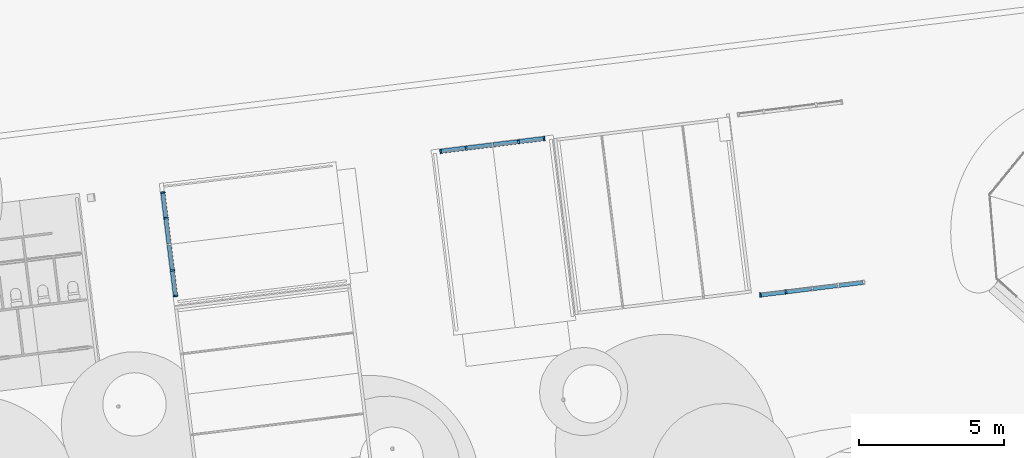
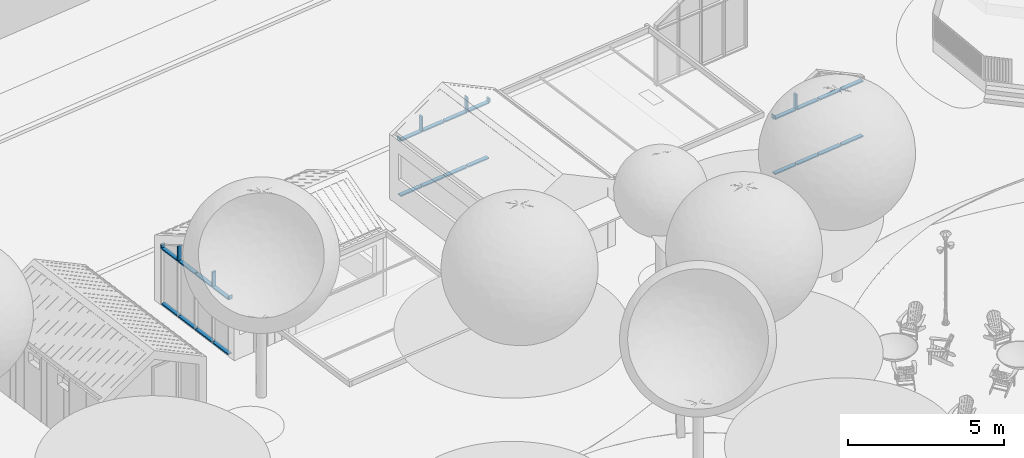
# One storey, part 4 of 75: 34 members, 3 elements without a shape of their own.
"""IFC2X3 building model written with IfcOpenShell, lengths in metres."""

from ifc_helpers import new_model, entity, si_unit, converted_unit, derived_unit, direction, frame, origin, origin_2d_with_axis, place, context, subcontext, project, spatial, polyline, rectangle, extrude, clip, halfspace, bounded_halfspace, source, transform, mapped, material, type_object, type_shapes, element, aggregate, save


model = new_model("IFC2X3")

# Units and contexts
model_context = context("Model", 3, precision=1e-05, world=origin(), true_north=direction((6.123031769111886e-17, 1.0)))
body_context = subcontext(model_context, "Body", "Model", "MODEL_VIEW")
ifc_project = project(units=[si_unit("LENGTHUNIT", "METRE"), si_unit("AREAUNIT", "SQUARE_METRE"), si_unit("VOLUMEUNIT", "CUBIC_METRE"), converted_unit("PLANEANGLEUNIT", "DEGREE", entity("IfcRatioMeasure", 0.017453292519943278), si_unit("PLANEANGLEUNIT", "RADIAN"), dimensions=[0, 0, 0, 0, 0, 0, 0]), si_unit("MASSUNIT", "GRAM", prefix="KILO"), derived_unit("MASSDENSITYUNIT", [(si_unit("MASSUNIT", "GRAM", prefix="KILO"), 1), (si_unit("LENGTHUNIT", "METRE"), -3)]), derived_unit("IONCONCENTRATIONUNIT", [(si_unit("MASSUNIT", "GRAM", prefix="KILO"), 1), (si_unit("LENGTHUNIT", "METRE"), -3)]), derived_unit("MOMENTOFINERTIAUNIT", [(si_unit("LENGTHUNIT", "METRE"), 4)]), si_unit("TIMEUNIT", "SECOND"), si_unit("FREQUENCYUNIT", "HERTZ"), si_unit("THERMODYNAMICTEMPERATUREUNIT", "DEGREE_CELSIUS"), derived_unit("THERMALTRANSMITTANCEUNIT", [(si_unit("MASSUNIT", "GRAM", prefix="KILO"), 1), (si_unit("THERMODYNAMICTEMPERATUREUNIT", "KELVIN"), -1), (si_unit("TIMEUNIT", "SECOND"), -3)]), derived_unit("THERMALCONDUCTANCEUNIT", [(si_unit("MASSUNIT", "GRAM", prefix="KILO"), 1), (si_unit("THERMODYNAMICTEMPERATUREUNIT", "KELVIN"), -1), (si_unit("TIMEUNIT", "SECOND"), -3), (si_unit("LENGTHUNIT", "METRE"), 1)]), derived_unit("VOLUMETRICFLOWRATEUNIT", [(si_unit("LENGTHUNIT", "METRE"), 3), (si_unit("TIMEUNIT", "SECOND"), -1)]), derived_unit("MASSFLOWRATEUNIT", [(si_unit("MASSUNIT", "GRAM", prefix="KILO"), 1), (si_unit("TIMEUNIT", "SECOND"), -1)]), derived_unit("ROTATIONALFREQUENCYUNIT", [(si_unit("TIMEUNIT", "SECOND"), -1)]), si_unit("ELECTRICCURRENTUNIT", "AMPERE"), si_unit("ELECTRICVOLTAGEUNIT", "VOLT"), si_unit("POWERUNIT", "WATT"), si_unit("FORCEUNIT", "NEWTON", prefix="KILO"), si_unit("ILLUMINANCEUNIT", "LUX"), si_unit("LUMINOUSFLUXUNIT", "LUMEN"), si_unit("LUMINOUSINTENSITYUNIT", "CANDELA"), derived_unit("USERDEFINED", [(si_unit("MASSUNIT", "GRAM", prefix="KILO"), -1), (si_unit("LENGTHUNIT", "METRE"), -2), (si_unit("TIMEUNIT", "SECOND"), 3), (si_unit("LUMINOUSFLUXUNIT", "LUMEN"), 1)]), derived_unit("USERDEFINED", [(si_unit("MASSUNIT", "GRAM", prefix="KILO"), 1), (si_unit("TIMEUNIT", "SECOND"), -3), (si_unit("LENGTHUNIT", "METRE"), 3), (si_unit("ELECTRICCURRENTUNIT", "AMPERE"), -2)]), derived_unit("SOUNDPOWERUNIT", [(si_unit("MASSUNIT", "GRAM", prefix="KILO"), 1), (si_unit("TIMEUNIT", "SECOND"), -3), (si_unit("LENGTHUNIT", "METRE"), 2)]), derived_unit("SOUNDPRESSUREUNIT", [(si_unit("MASSUNIT", "GRAM", prefix="KILO"), 1), (si_unit("LENGTHUNIT", "METRE"), -1), (si_unit("TIMEUNIT", "SECOND"), -2)]), derived_unit("LINEARVELOCITYUNIT", [(si_unit("LENGTHUNIT", "METRE"), 1), (si_unit("TIMEUNIT", "SECOND"), -1)]), si_unit("PRESSUREUNIT", "PASCAL"), derived_unit("USERDEFINED", [(si_unit("MASSUNIT", "GRAM", prefix="KILO"), 1), (si_unit("LENGTHUNIT", "METRE"), -2), (si_unit("TIMEUNIT", "SECOND"), -2)]), derived_unit("LINEARFORCEUNIT", [(si_unit("MASSUNIT", "GRAM", prefix="KILO"), 1), (si_unit("TIMEUNIT", "SECOND"), -2)]), derived_unit("PLANARFORCEUNIT", [(si_unit("MASSUNIT", "GRAM", prefix="KILO"), 1), (si_unit("LENGTHUNIT", "METRE"), -1), (si_unit("TIMEUNIT", "SECOND"), -2)]), derived_unit("SPECIFICHEATCAPACITYUNIT", [(si_unit("THERMODYNAMICTEMPERATUREUNIT", "KELVIN"), -1), (si_unit("LENGTHUNIT", "METRE"), 2), (si_unit("TIMEUNIT", "SECOND"), -2)]), derived_unit("HEATINGVALUEUNIT", [(si_unit("LENGTHUNIT", "METRE"), 2), (si_unit("TIMEUNIT", "SECOND"), -2)]), derived_unit("VAPORPERMEABILITYUNIT", [(si_unit("LENGTHUNIT", "METRE"), -1), (si_unit("TIMEUNIT", "SECOND"), 1)]), derived_unit("DYNAMICVISCOSITYUNIT", [(si_unit("MASSUNIT", "GRAM", prefix="KILO"), 1), (si_unit("TIMEUNIT", "SECOND"), -1), (si_unit("LENGTHUNIT", "METRE"), -1)]), derived_unit("THERMALEXPANSIONCOEFFICIENTUNIT", [(si_unit("THERMODYNAMICTEMPERATUREUNIT", "KELVIN"), -1)]), derived_unit("MODULUSOFELASTICITYUNIT", [(si_unit("MASSUNIT", "GRAM", prefix="KILO"), 1), (si_unit("LENGTHUNIT", "METRE"), -1), (si_unit("TIMEUNIT", "SECOND"), -2)]), derived_unit("ISOTHERMALMOISTURECAPACITYUNIT", [(si_unit("LENGTHUNIT", "METRE"), 3), (si_unit("MASSUNIT", "GRAM", prefix="KILO"), -1)]), derived_unit("MOISTUREDIFFUSIVITYUNIT", [(si_unit("TIMEUNIT", "SECOND"), -1), (si_unit("LENGTHUNIT", "METRE"), 2)])], contexts=[model_context])

# Site, building, storey
site_placement = place(None, origin())
site = spatial("IfcSite", under=ifc_project, at=site_placement, Name="Default", CompositionType="ELEMENT")
building_placement = place(site_placement, origin())
building = spatial("IfcBuilding", under=site, at=building_placement, Name="Projeto", CompositionType="ELEMENT")
storey_placement = place(building_placement, origin())
storey = spatial("IfcBuildingStorey", under=building, at=storey_placement, Name="Nível 1", CompositionType="ELEMENT", Elevation=0.0)

# Curtain wall, members
curtain_wall_type = type_object("IfcCurtainWallType", Name="Parede cortina:Vitrine", PredefinedType="NOTDEFINED")
curtain_wall_1_placement = place(storey_placement, origin())
curtain_wall_1 = element("IfcCurtainWall", 1, at=curtain_wall_1_placement, inside=storey, type_object=curtain_wall_type, Name="Parede cortina:Vitrine", ObjectType="Parede cortina:Vitrine")
ifc_material = material(Name="Alumín.")
member_type_1 = type_object("IfcMemberType", Name="Montante retangular:50 x 150mm", PredefinedType="MULLION", material=ifc_material)
shared_shape_1 = source(origin(), body_context, "Body", "SweptSolid", [
    extrude(rectangle(XDim=0.14999999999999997, YDim=0.05, at=origin_2d_with_axis()), frame((-0.025, 0.0, -0.8337612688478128), z_axis=(0.0, 0.0, 1.0), x_axis=(0.0, -1.0, 0.0)), (0.0, 0.0, 1.0), 0.8337612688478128),
])
type_shapes(member_type_1, [shared_shape_1])
member_1_placement = place(curtain_wall_1_placement, frame((1.2274902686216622, 34.72319980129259, -2.5799999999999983), z_axis=(0.9925113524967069, 0.12215242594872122, 0.0), x_axis=(0.0, 0.0, -1.0)))
member_1 = element("IfcMember", 2, at=member_1_placement, type_object=member_type_1, material=ifc_material, Name="Montante retangular:50 x 150mm", ObjectType="Montante retangular:50 x 150mm", context=body_context, shape_type="MappedRepresentation", body=[
    mapped(shared_shape_1, transform((0.0, 0.0, 0.0), scale=1.0)),
])
member_2_placement = place(curtain_wall_1_placement, frame((-1.4535645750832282, 34.39323143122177, -2.5799999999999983), z_axis=(0.9925113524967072, 0.12215242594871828, 0.0), x_axis=(0.0, 0.0, -1.0)))
member_2 = element("IfcMember", 3, at=member_2_placement, type_object=member_type_1, material=ifc_material, Name="Montante retangular:50 x 150mm", ObjectType="Montante retangular:50 x 150mm", context=body_context, shape_type="MappedRepresentation", body=[
    mapped(shared_shape_1, transform((0.0, 0.0, 0.0), scale=1.0)),
])

curtain_wall_2_placement = place(storey_placement, origin())
curtain_wall_2 = element("IfcCurtainWall", 4, at=curtain_wall_2_placement, inside=storey, type_object=curtain_wall_type, Name="Parede cortina:Vitrine", ObjectType="Parede cortina:Vitrine")
member_3_placement = place(curtain_wall_2_placement, frame((-11.858761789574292, 32.84686849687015, -2.579999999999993), z_axis=(-0.12215242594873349, 0.9925113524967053, 0.0), x_axis=(0.0, 0.0, -1.0)))
member_3 = element("IfcMember", 5, at=member_3_placement, type_object=member_type_1, material=ifc_material, Name="Montante retangular:50 x 150mm", ObjectType="Montante retangular:50 x 150mm", context=body_context, shape_type="MappedRepresentation", body=[
    mapped(shared_shape_1, transform((0.0, 0.0, 0.0), scale=1.0)),
])
member_4_placement = place(curtain_wall_2_placement, frame((-11.528793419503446, 30.165813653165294, -2.579999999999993), z_axis=(-0.12215242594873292, 0.9925113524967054, 0.0), x_axis=(0.0, 0.0, -1.0)))
member_4 = element("IfcMember", 6, at=member_4_placement, type_object=member_type_1, material=ifc_material, Name="Montante retangular:50 x 150mm", ObjectType="Montante retangular:50 x 150mm", context=body_context, shape_type="MappedRepresentation", body=[
    mapped(shared_shape_1, transform((0.0, 0.0, 0.0), scale=1.0)),
])

curtain_wall_3_placement = place(storey_placement, origin())
curtain_wall_3 = element("IfcCurtainWall", 7, at=curtain_wall_3_placement, inside=storey, type_object=curtain_wall_type, Name="Parede cortina:Vitrine", ObjectType="Parede cortina:Vitrine")
member_5_placement = place(curtain_wall_3_placement, frame((8.719413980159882, 29.35007242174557, -2.579999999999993), z_axis=(-0.9925113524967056, -0.12215242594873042, 0.0), x_axis=(0.0, 0.0, -1.0)))
member_5 = element("IfcMember", 8, at=member_5_placement, type_object=member_type_1, material=ifc_material, Name="Montante retangular:50 x 150mm", ObjectType="Montante retangular:50 x 150mm", context=body_context, shape_type="MappedRepresentation", body=[
    mapped(shared_shape_1, transform((0.0, 0.0, 0.0), scale=1.0)),
])
member_6_placement = place(curtain_wall_3_placement, frame((11.400468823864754, 29.680040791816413, -2.579999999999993), z_axis=(-0.9925113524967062, -0.12215242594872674, 0.0), x_axis=(0.0, 0.0, -1.0)))
member_6 = element("IfcMember", 9, at=member_6_placement, type_object=member_type_1, material=ifc_material, Name="Montante retangular:50 x 150mm", ObjectType="Montante retangular:50 x 150mm", context=body_context, shape_type="MappedRepresentation", body=[
    mapped(shared_shape_1, transform((0.0, 0.0, 0.0), scale=1.0)),
])

# Member
member_type_2 = type_object("IfcMemberType", Name="Montante retangular:50 x 150mm", PredefinedType="MULLION", material=ifc_material)
shared_shape_2 = source(origin(), body_context, "Body", "SweptSolid", [
    extrude(rectangle(XDim=0.14999999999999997, YDim=0.05, at=origin_2d_with_axis()), frame((-0.025, 0.0, -0.858761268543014), z_axis=(0.0, 0.0, 1.0), x_axis=(0.0, -1.0, 0.0)), (0.0, 0.0, 1.0), 0.858761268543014),
])
type_shapes(member_type_2, [shared_shape_2])
member_7_placement = place(curtain_wall_1_placement, frame((0.3503471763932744, 34.6152462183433, -2.5799999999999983), z_axis=(0.9925113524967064, 0.12215242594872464, 0.0), x_axis=(0.0, 0.0, -1.0)))
member_7 = element("IfcMember", 10, at=member_7_placement, type_object=member_type_2, material=ifc_material, Name="Montante retangular:50 x 150mm", ObjectType="Montante retangular:50 x 150mm", context=body_context, shape_type="MappedRepresentation", body=[
    mapped(shared_shape_2, transform((0.0, 0.0, 0.0), scale=1.0)),
])

member_8_placement = place(curtain_wall_1_placement, frame((-0.5516086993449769, 34.50423882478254, -2.5799999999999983), z_axis=(0.992511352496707, 0.12215242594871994, 0.0), x_axis=(0.0, 0.0, -1.0)))
member_8 = element("IfcMember", 11, at=member_8_placement, type_object=member_type_2, material=ifc_material, Name="Montante retangular:50 x 150mm", ObjectType="Montante retangular:50 x 150mm", context=body_context, shape_type="MappedRepresentation", body=[
    mapped(shared_shape_2, transform((0.0, 0.0, 0.0), scale=1.0)),
])

member_9_placement = place(curtain_wall_2_placement, frame((-11.750808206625, 31.969725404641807, -2.579999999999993), z_axis=(-0.12215242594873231, 0.9925113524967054, 0.0), x_axis=(0.0, 0.0, -1.0)))
member_9 = element("IfcMember", 12, at=member_9_placement, type_object=member_type_2, material=ifc_material, Name="Montante retangular:50 x 150mm", ObjectType="Montante retangular:50 x 150mm", context=body_context, shape_type="MappedRepresentation", body=[
    mapped(shared_shape_2, transform((0.0, 0.0, 0.0), scale=1.0)),
])

member_10_placement = place(curtain_wall_2_placement, frame((-11.639800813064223, 31.067769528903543, -2.579999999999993), z_axis=(-0.12215242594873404, 0.9925113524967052, 0.0), x_axis=(0.0, 0.0, -1.0)))
member_10 = element("IfcMember", 13, at=member_10_placement, type_object=member_type_2, material=ifc_material, Name="Montante retangular:50 x 150mm", ObjectType="Montante retangular:50 x 150mm", context=body_context, shape_type="MappedRepresentation", body=[
    mapped(shared_shape_2, transform((0.0, 0.0, 0.0), scale=1.0)),
])

member_11_placement = place(curtain_wall_3_placement, frame((9.596557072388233, 29.458026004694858, -2.579999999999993), z_axis=(-0.9925113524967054, -0.12215242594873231, 0.0), x_axis=(0.0, 0.0, -1.0)))
member_11 = element("IfcMember", 14, at=member_11_placement, type_object=member_type_2, material=ifc_material, Name="Montante retangular:50 x 150mm", ObjectType="Montante retangular:50 x 150mm", context=body_context, shape_type="MappedRepresentation", body=[
    mapped(shared_shape_2, transform((0.0, 0.0, 0.0), scale=1.0)),
])

member_12_placement = place(curtain_wall_3_placement, frame((10.498512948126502, 29.569033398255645, -2.579999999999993), z_axis=(-0.9925113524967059, -0.12215242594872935, 0.0), x_axis=(0.0, 0.0, -1.0)))
member_12 = element("IfcMember", 15, at=member_12_placement, type_object=member_type_2, material=ifc_material, Name="Montante retangular:50 x 150mm", ObjectType="Montante retangular:50 x 150mm", context=body_context, shape_type="MappedRepresentation", body=[
    mapped(shared_shape_2, transform((0.0, 0.0, 0.0), scale=1.0)),
])

member_type_3 = type_object("IfcMemberType", Name="Montante retangular:50 x 150mm", PredefinedType="MULLION", material=ifc_material)
shared_shape_3 = source(origin(), body_context, "Body", "SweptSolid", [
    clip(clip(extrude(rectangle(XDim=0.14999999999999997, YDim=0.05, at=origin_2d_with_axis()), frame((0.0, 0.0, -0.6097128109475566), z_axis=(0.0, 0.0, 1.0), x_axis=(0.0, -1.0, 0.0)), (0.0, 0.0, 1.0), 0.6097128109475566), bounded_halfspace(frame((0.9249729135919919, 0.07499999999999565, -1.0882368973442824), z_axis=(-0.46947156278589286, 0.0, -0.8829475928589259), x_axis=(-0.8829475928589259, 0.0, 0.46947156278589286)), False, frame((0.0, 0.0, -0.6097128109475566), z_axis=(0.0, 0.0, 1.0), x_axis=(0.0, -1.0, 0.0)), polyline([(-0.07499999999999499, 0.025), (0.07499999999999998, 0.025), (0.07499999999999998, 0.023473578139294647), (-0.07499999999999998, 0.0234735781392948), (-0.07499999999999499, 0.025)]))), bounded_halfspace(frame((0.023473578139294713, 0.07499999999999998, -0.6089011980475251), z_axis=(-0.4694715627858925, 0.0, -0.8829475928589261), x_axis=(-0.8829475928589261, 0.0, 0.4694715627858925)), False, frame((0.0, 0.0, -0.6097128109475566), z_axis=(0.0, 0.0, 1.0), x_axis=(0.0, -1.0, 0.0)), polyline([(0.07499999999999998, 0.023473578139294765), (0.07499999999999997, -0.025), (-0.07499999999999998, -0.025), (-0.07499999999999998, 0.023473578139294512), (0.07499999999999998, 0.023473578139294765)]))),
])
type_shapes(member_type_3, [shared_shape_3])
member_13_placement = place(curtain_wall_1_placement, frame((0.37515996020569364, 34.61830002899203, -0.39703155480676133), z_axis=(0.0, 0.0, -1.0), x_axis=(-0.992511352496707, -0.12215242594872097, 0.0)))
member_13 = element("IfcMember", 16, at=member_13_placement, type_object=member_type_3, material=ifc_material, Name="Montante retangular:50 x 150mm", ObjectType="Montante retangular:50 x 150mm", context=body_context, shape_type="MappedRepresentation", body=[
    mapped(shared_shape_3, transform((0.0, 0.0, 0.0), scale=1.0)),
])

member_14_placement = place(curtain_wall_2_placement, frame((-11.753862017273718, 31.994538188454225, -0.39703155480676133), z_axis=(0.0, 0.0, -1.0), x_axis=(0.12215242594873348, -0.9925113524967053, 0.0)))
member_14 = element("IfcMember", 17, at=member_14_placement, type_object=member_type_3, material=ifc_material, Name="Montante retangular:50 x 150mm", ObjectType="Montante retangular:50 x 150mm", context=body_context, shape_type="MappedRepresentation", body=[
    mapped(shared_shape_3, transform((0.0, 0.0, 0.0), scale=1.0)),
])

member_15_placement = place(curtain_wall_3_placement, frame((9.571744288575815, 29.45497219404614, -0.39703155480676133), z_axis=(0.0, 0.0, -1.0), x_axis=(0.9925113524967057, 0.1221524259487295, 0.0)))
member_15 = element("IfcMember", 18, at=member_15_placement, type_object=member_type_3, material=ifc_material, Name="Montante retangular:50 x 150mm", ObjectType="Montante retangular:50 x 150mm", context=body_context, shape_type="MappedRepresentation", body=[
    mapped(shared_shape_3, transform((0.0, 0.0, 0.0), scale=1.0)),
])

member_type_4 = type_object("IfcMemberType", Name="Montante retangular:50 x 150mm", PredefinedType="MULLION", material=ifc_material)
shared_shape_4 = source(origin(), body_context, "Body", "SweptSolid", [
    extrude(rectangle(XDim=0.15, YDim=0.05, at=origin_2d_with_axis()), frame((0.0, 0.0, -0.8337612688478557), z_axis=(0.0, 0.0, 1.0), x_axis=(0.0, -1.0, 0.0)), (0.0, 0.0, 1.0), 0.8337612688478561),
])
type_shapes(member_type_4, [shared_shape_4])
member_16_placement = place(curtain_wall_1_placement, frame((0.3999727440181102, 34.62135383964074, -0.39703155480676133), z_axis=(-0.992511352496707, -0.12215242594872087, 0.0), x_axis=(0.0, 0.0, 1.0)))
member_16 = element("IfcMember", 19, at=member_16_placement, type_object=member_type_4, material=ifc_material, Name="Montante retangular:50 x 150mm", ObjectType="Montante retangular:50 x 150mm", context=body_context, shape_type="MappedRepresentation", body=[
    mapped(shared_shape_4, transform((0.0, 0.0, 0.0), scale=1.0)),
])

member_17_placement = place(curtain_wall_1_placement, frame((-2.2810820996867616, 34.291385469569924, -0.39703155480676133), z_axis=(-0.9925113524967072, -0.12215242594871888, 0.0), x_axis=(0.0, 0.0, 1.0)))
member_17 = element("IfcMember", 20, at=member_17_placement, type_object=member_type_4, material=ifc_material, Name="Montante retangular:50 x 150mm", ObjectType="Montante retangular:50 x 150mm", context=body_context, shape_type="MappedRepresentation", body=[
    mapped(shared_shape_4, transform((0.0, 0.0, 0.0), scale=1.0)),
])

member_18_placement = place(curtain_wall_2_placement, frame((-11.756915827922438, 32.01935097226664, -0.39703155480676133), z_axis=(0.12215242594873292, -0.9925113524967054, 0.0), x_axis=(0.0, 0.0, 1.0)))
member_18 = element("IfcMember", 21, at=member_18_placement, type_object=member_type_4, material=ifc_material, Name="Montante retangular:50 x 150mm", ObjectType="Montante retangular:50 x 150mm", context=body_context, shape_type="MappedRepresentation", body=[
    mapped(shared_shape_4, transform((0.0, 0.0, 0.0), scale=1.0)),
])

member_19_placement = place(curtain_wall_2_placement, frame((-11.426947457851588, 29.33829612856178, -0.39703155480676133), z_axis=(0.12215242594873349, -0.9925113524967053, 0.0), x_axis=(0.0, 0.0, 1.0)))
member_19 = element("IfcMember", 22, at=member_19_placement, type_object=member_type_4, material=ifc_material, Name="Montante retangular:50 x 150mm", ObjectType="Montante retangular:50 x 150mm", context=body_context, shape_type="MappedRepresentation", body=[
    mapped(shared_shape_4, transform((0.0, 0.0, 0.0), scale=1.0)),
])

member_20_placement = place(curtain_wall_3_placement, frame((9.5469315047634, 29.45191838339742, -0.39703155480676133), z_axis=(0.9925113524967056, 0.12215242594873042, 0.0), x_axis=(0.0, 0.0, 1.0)))
member_20 = element("IfcMember", 23, at=member_20_placement, type_object=member_type_4, material=ifc_material, Name="Montante retangular:50 x 150mm", ObjectType="Montante retangular:50 x 150mm", context=body_context, shape_type="MappedRepresentation", body=[
    mapped(shared_shape_4, transform((0.0, 0.0, 0.0), scale=1.0)),
])

member_21_placement = place(curtain_wall_3_placement, frame((12.227986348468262, 29.781886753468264, -0.39703155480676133), z_axis=(0.9925113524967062, 0.12215242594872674, 0.0), x_axis=(0.0, 0.0, 1.0)))
member_21 = element("IfcMember", 24, at=member_21_placement, type_object=member_type_4, material=ifc_material, Name="Montante retangular:50 x 150mm", ObjectType="Montante retangular:50 x 150mm", context=body_context, shape_type="MappedRepresentation", body=[
    mapped(shared_shape_4, transform((0.0, 0.0, 0.0), scale=1.0)),
])

member_type_5 = type_object("IfcMemberType", Name="Montante retangular:50 x 150mm", PredefinedType="MULLION", material=ifc_material)
shared_shape_5 = source(origin(), body_context, "Body", "SweptSolid", [
    extrude(rectangle(XDim=0.14999999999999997, YDim=0.05, at=origin_2d_with_axis()), frame((0.0, 0.0, -0.8587612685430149), z_axis=(0.0, 0.0, 1.0), x_axis=(0.0, -1.0, 0.0)), (0.0, 0.0, 1.0), 0.8587612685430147),
])
type_shapes(member_type_5, [shared_shape_5])
member_22_placement = place(curtain_wall_1_placement, frame((-0.5019831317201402, 34.510346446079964, -0.39703155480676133), z_axis=(-0.9925113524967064, -0.12215242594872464, 0.0), x_axis=(0.0, 0.0, 1.0)))
member_22 = element("IfcMember", 25, at=member_22_placement, type_object=member_type_5, material=ifc_material, Name="Montante retangular:50 x 150mm", ObjectType="Montante retangular:50 x 150mm", context=body_context, shape_type="MappedRepresentation", body=[
    mapped(shared_shape_5, transform((0.0, 0.0, 0.0), scale=1.0)),
])

member_23_placement = place(curtain_wall_1_placement, frame((-1.4039390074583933, 34.39933905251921, -0.39703155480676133), z_axis=(-0.992511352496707, -0.1221524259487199, 0.0), x_axis=(0.0, 0.0, 1.0)))
member_23 = element("IfcMember", 26, at=member_23_placement, type_object=member_type_5, material=ifc_material, Name="Montante retangular:50 x 150mm", ObjectType="Montante retangular:50 x 150mm", context=body_context, shape_type="MappedRepresentation", body=[
    mapped(shared_shape_5, transform((0.0, 0.0, 0.0), scale=1.0)),
])

member_24_placement = place(curtain_wall_2_placement, frame((-11.645908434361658, 31.117395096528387, -0.39703155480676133), z_axis=(0.12215242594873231, -0.9925113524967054, 0.0), x_axis=(0.0, 0.0, 1.0)))
member_24 = element("IfcMember", 27, at=member_24_placement, type_object=member_type_5, material=ifc_material, Name="Montante retangular:50 x 150mm", ObjectType="Montante retangular:50 x 150mm", context=body_context, shape_type="MappedRepresentation", body=[
    mapped(shared_shape_5, transform((0.0, 0.0, 0.0), scale=1.0)),
])

member_25_placement = place(curtain_wall_2_placement, frame((-11.534901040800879, 30.215439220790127, -0.39703155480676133), z_axis=(0.12215242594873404, -0.9925113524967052, 0.0), x_axis=(0.0, 0.0, 1.0)))
member_25 = element("IfcMember", 28, at=member_25_placement, type_object=member_type_5, material=ifc_material, Name="Montante retangular:50 x 150mm", ObjectType="Montante retangular:50 x 150mm", context=body_context, shape_type="MappedRepresentation", body=[
    mapped(shared_shape_5, transform((0.0, 0.0, 0.0), scale=1.0)),
])

member_26_placement = place(curtain_wall_3_placement, frame((10.448887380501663, 29.562925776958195, -0.39703155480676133), z_axis=(0.9925113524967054, 0.12215242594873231, 0.0), x_axis=(0.0, 0.0, 1.0)))
member_26 = element("IfcMember", 29, at=member_26_placement, type_object=member_type_5, material=ifc_material, Name="Montante retangular:50 x 150mm", ObjectType="Montante retangular:50 x 150mm", context=body_context, shape_type="MappedRepresentation", body=[
    mapped(shared_shape_5, transform((0.0, 0.0, 0.0), scale=1.0)),
])

member_27_placement = place(curtain_wall_3_placement, frame((11.350843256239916, 29.67393317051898, -0.39703155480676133), z_axis=(0.9925113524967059, 0.12215242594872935, 0.0), x_axis=(0.0, 0.0, 1.0)))
member_27 = element("IfcMember", 30, at=member_27_placement, type_object=member_type_5, material=ifc_material, Name="Montante retangular:50 x 150mm", ObjectType="Montante retangular:50 x 150mm", context=body_context, shape_type="MappedRepresentation", body=[
    mapped(shared_shape_5, transform((0.0, 0.0, 0.0), scale=1.0)),
])

member_type_6 = type_object("IfcMemberType", Name="Montante retangular:50 x 150mm", PredefinedType="MULLION", material=ifc_material)
shared_shape_6 = source(origin(), body_context, "Body", "SweptSolid", [
    clip(clip(extrude(rectangle(XDim=0.14999999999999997, YDim=0.05, at=origin_2d_with_axis()), frame((0.0, 0.0, -0.6019903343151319), z_axis=(0.0, 0.0, 1.0), x_axis=(0.0, -1.0, 0.0)), (0.0, 0.0, 1.0), 0.6019903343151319), bounded_halfspace(frame((-0.023473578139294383, 0.07499999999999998, -0.6011787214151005), z_axis=(0.46947156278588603, 0.0, -0.8829475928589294), x_axis=(-0.8829475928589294, 0.0, -0.46947156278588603)), False, frame((0.0, 0.0, -0.6019903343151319), z_axis=(0.0, 0.0, 1.0), x_axis=(0.0, -1.0, 0.0)), polyline([(0.07499999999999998, -0.023473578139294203), (0.07499999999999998, -0.025), (-0.07499999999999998, -0.025), (-0.07499999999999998, -0.023473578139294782), (0.07499999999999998, -0.023473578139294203)]))), bounded_halfspace(frame((0.8852876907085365, 0.07500000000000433, -0.11798178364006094), z_axis=(0.46947156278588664, 0.0, -0.8829475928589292), x_axis=(-0.8829475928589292, 0.0, -0.46947156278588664)), False, frame((0.0, 0.0, -0.6019903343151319), z_axis=(0.0, 0.0, 1.0), x_axis=(0.0, -1.0, 0.0)), polyline([(-0.07500000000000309, 0.025), (0.07499999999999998, 0.025), (0.07499999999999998, -0.023473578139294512), (-0.07499999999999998, -0.0234735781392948), (-0.07500000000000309, 0.025)]))),
])
type_shapes(member_type_6, [shared_shape_6])
member_28_placement = place(curtain_wall_1_placement, frame((-1.4287517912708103, 34.396285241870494, -0.39703155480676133), z_axis=(0.0, 0.0, -1.0), x_axis=(-0.992511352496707, -0.12215242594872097, 0.0)))
member_28 = element("IfcMember", 31, at=member_28_placement, type_object=member_type_6, material=ifc_material, Name="Montante retangular:50 x 150mm", ObjectType="Montante retangular:50 x 150mm", context=body_context, shape_type="MappedRepresentation", body=[
    mapped(shared_shape_6, transform((0.0, 0.0, 0.0), scale=1.0)),
])

member_type_7 = type_object("IfcMemberType", Name="Montante retangular:50 x 150mm", PredefinedType="MULLION", material=ifc_material)
shared_shape_7 = source(origin(), body_context, "Body", "SweptSolid", [
    clip(extrude(rectangle(XDim=0.14999999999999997, YDim=0.05, at=origin_2d_with_axis()), frame((-0.025, 0.0, -0.16985163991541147), z_axis=(0.0, 0.0, 1.0), x_axis=(0.0, -1.0, 0.0)), (0.0, 0.0, 1.0), 0.1698516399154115), halfspace(frame((0.0, -0.3048, 0.0), z_axis=(-0.5150380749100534, 0.0, 0.8571673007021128), x_axis=(-0.8571673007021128, 0.0, -0.5150380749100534)), False)),
])
type_shapes(member_type_7, [shared_shape_7])
member_29_placement = place(curtain_wall_1_placement, frame((1.2771158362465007, 34.72930742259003, -0.22717991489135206), z_axis=(0.0, 0.0, 1.0), x_axis=(0.992511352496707, 0.12215242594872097, 0.0)))
member_29 = element("IfcMember", 32, at=member_29_placement, type_object=member_type_7, material=ifc_material, Name="Montante retangular:50 x 150mm", ObjectType="Montante retangular:50 x 150mm", context=body_context, shape_type="MappedRepresentation", body=[
    mapped(shared_shape_7, transform((0.0, 0.0, 0.0), scale=1.0)),
])

member_30_placement = place(curtain_wall_2_placement, frame((-11.864869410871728, 32.896494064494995, -0.22717991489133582), z_axis=(0.0, 0.0, 1.0), x_axis=(-0.12215242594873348, 0.9925113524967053, 0.0)))
member_30 = element("IfcMember", 33, at=member_30_placement, type_object=member_type_7, material=ifc_material, Name="Montante retangular:50 x 150mm", ObjectType="Montante retangular:50 x 150mm", context=body_context, shape_type="MappedRepresentation", body=[
    mapped(shared_shape_7, transform((0.0, 0.0, 0.0), scale=1.0)),
])

member_31_placement = place(curtain_wall_3_placement, frame((8.669788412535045, 29.34396480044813, -0.22717991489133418), z_axis=(0.0, 0.0, 1.0), x_axis=(-0.9925113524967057, -0.1221524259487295, 0.0)))
member_31 = element("IfcMember", 34, at=member_31_placement, type_object=member_type_7, material=ifc_material, Name="Montante retangular:50 x 150mm", ObjectType="Montante retangular:50 x 150mm", context=body_context, shape_type="MappedRepresentation", body=[
    mapped(shared_shape_7, transform((0.0, 0.0, 0.0), scale=1.0)),
])

aggregate(curtain_wall_3, [member_5, member_11, member_12, member_15, member_20, member_26, member_27, member_6, member_21, member_31])

member_type_8 = type_object("IfcMemberType", Name="Montante retangular:50 x 150mm", PredefinedType="MULLION", material=ifc_material)
shared_shape_8 = source(origin(), body_context, "Body", "SweptSolid", [
    clip(extrude(rectangle(XDim=0.14999999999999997, YDim=0.05, at=origin_2d_with_axis()), frame((-0.025, 0.0, -0.16212916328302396), z_axis=(0.0, 0.0, 1.0), x_axis=(0.0, -1.0, 0.0)), (0.0, 0.0, 1.0), 0.16212916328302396), halfspace(frame((0.0, -0.30479999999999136, -0.16212916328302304), z_axis=(-0.5150380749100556, 0.0, -0.8571673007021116), x_axis=(-0.8571673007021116, 0.0, 0.5150380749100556)), False)),
])
type_shapes(member_type_8, [shared_shape_8])
member_32_placement = place(curtain_wall_1_placement, frame((-2.3307076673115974, 34.2852778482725, -0.39703155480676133), z_axis=(0.0, 0.0, -1.0), x_axis=(-0.992511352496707, -0.12215242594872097, 0.0)))
member_32 = element("IfcMember", 35, at=member_32_placement, type_object=member_type_8, material=ifc_material, Name="Montante retangular:50 x 150mm", ObjectType="Montante retangular:50 x 150mm", context=body_context, shape_type="MappedRepresentation", body=[
    mapped(shared_shape_8, transform((0.0, 0.0, 0.0), scale=1.0)),
])

aggregate(curtain_wall_1, [member_1, member_7, member_8, member_13, member_16, member_22, member_23, member_2, member_17, member_28, member_29, member_32])

member_type_9 = type_object("IfcMemberType", Name="Montante retangular:50 x 150mm", PredefinedType="MULLION", material=ifc_material)
shared_shape_9 = source(origin(), body_context, "Body", "SweptSolid", [
    clip(clip(extrude(rectangle(XDim=0.15000000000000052, YDim=0.05, at=origin_2d_with_axis()), frame((0.0, 0.0, -0.6019903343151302), z_axis=(0.0, 0.0, 1.0), x_axis=(0.0, -1.0, 0.0)), (0.0, 0.0, 1.0), 0.6019903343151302), bounded_halfspace(frame((-0.023473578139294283, 0.07499999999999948, -0.6011787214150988), z_axis=(0.46947156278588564, 0.0, -0.8829475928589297), x_axis=(-0.8829475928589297, 0.0, -0.46947156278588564)), False, frame((0.0, 0.0, -0.6019903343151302), z_axis=(0.0, 0.0, 1.0), x_axis=(0.0, -1.0, 0.0)), polyline([(0.07499999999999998, -0.023473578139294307), (0.07500000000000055, -0.025), (-0.07499999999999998, -0.025), (-0.07499999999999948, -0.023473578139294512), (0.07499999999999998, -0.023473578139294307)]))), bounded_halfspace(frame((0.8852876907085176, 0.07499999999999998, -0.1179817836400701), z_axis=(0.4694715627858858, 0.0, -0.8829475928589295), x_axis=(-0.8829475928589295, 0.0, -0.4694715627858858)), False, frame((0.0, 0.0, -0.6019903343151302), z_axis=(0.0, 0.0, 1.0), x_axis=(0.0, -1.0, 0.0)), polyline([(-0.07499999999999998, 0.025), (0.07499999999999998, 0.025000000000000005), (0.0750000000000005, -0.023473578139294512), (-0.07499999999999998, -0.023473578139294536), (-0.07499999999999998, 0.025)]))),
])
type_shapes(member_type_9, [shared_shape_9])
member_33_placement = place(curtain_wall_2_placement, frame((-11.531847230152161, 30.19062643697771, -0.39703155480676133), z_axis=(0.0, 0.0, -1.0), x_axis=(0.12215242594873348, -0.9925113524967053, 0.0)))
member_33 = element("IfcMember", 36, at=member_33_placement, type_object=member_type_9, material=ifc_material, Name="Montante retangular:50 x 150mm", ObjectType="Montante retangular:50 x 150mm", context=body_context, shape_type="MappedRepresentation", body=[
    mapped(shared_shape_9, transform((0.0, 0.0, 0.0), scale=1.0)),
])

member_type_10 = type_object("IfcMemberType", Name="Montante retangular:50 x 150mm", PredefinedType="MULLION", material=ifc_material)
shared_shape_10 = source(origin(), body_context, "Body", "SweptSolid", [
    clip(extrude(rectangle(XDim=0.14999999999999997, YDim=0.05, at=origin_2d_with_axis()), frame((-0.025, 0.0, -0.16212916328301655), z_axis=(0.0, 0.0, 1.0), x_axis=(0.0, -1.0, 0.0)), (0.0, 0.0, 1.0), 0.16212916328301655), halfspace(frame((0.0, -0.3048, -0.16212916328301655), z_axis=(-0.5150380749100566, 0.0, -0.8571673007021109), x_axis=(-0.8571673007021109, 0.0, 0.5150380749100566)), False)),
])
type_shapes(member_type_10, [shared_shape_10])
member_34_placement = place(curtain_wall_2_placement, frame((-11.420839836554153, 29.288670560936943, -0.39703155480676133), z_axis=(0.0, 0.0, -1.0), x_axis=(0.12215242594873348, -0.9925113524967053, 0.0)))
member_34 = element("IfcMember", 37, at=member_34_placement, type_object=member_type_10, material=ifc_material, Name="Montante retangular:50 x 150mm", ObjectType="Montante retangular:50 x 150mm", context=body_context, shape_type="MappedRepresentation", body=[
    mapped(shared_shape_10, transform((0.0, 0.0, 0.0), scale=1.0)),
])

aggregate(curtain_wall_2, [member_3, member_9, member_10, member_14, member_18, member_24, member_25, member_4, member_19, member_33, member_30, member_34])

save(model, "model.ifc")
